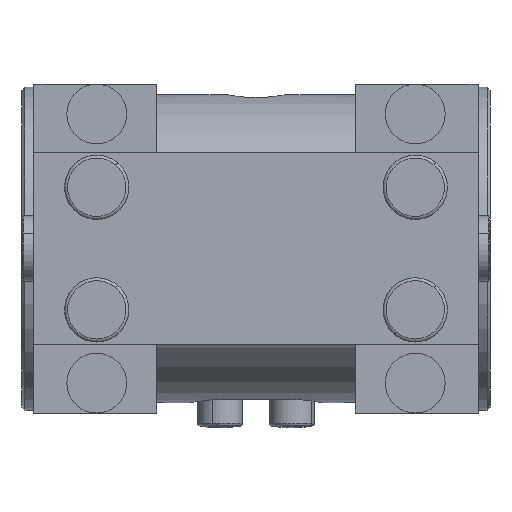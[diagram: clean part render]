
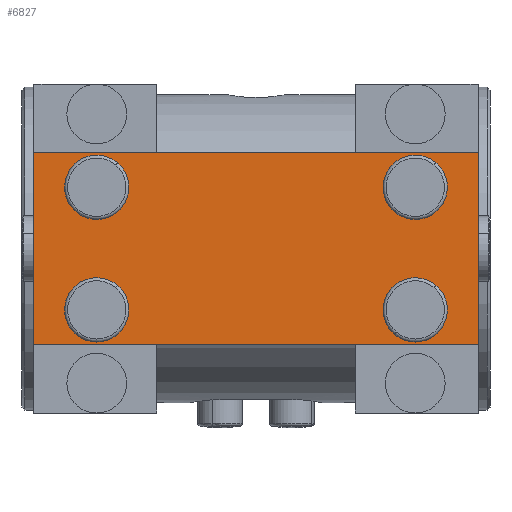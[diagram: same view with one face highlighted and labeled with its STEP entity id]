
A CAD part, front view. The second image highlights one B-rep face of the part: STEP entity #6827.
In plain terms, the highlighted planar face has unit normal (0, -1, 0).
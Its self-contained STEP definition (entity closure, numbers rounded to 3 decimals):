
#2 = CARTESIAN_POINT ( 'NONE',  ( -53.25, -83., -20.5 ) ) ;
#100 = AXIS2_PLACEMENT_3D ( 'NONE', #27055, #5444, #2681 ) ;
#154 = CARTESIAN_POINT ( 'NONE',  ( 62.75, -83., 20.5 ) ) ;
#250 = ORIENTED_EDGE ( 'NONE', *, *, #1325, .F. ) ;
#1188 = VERTEX_POINT ( 'NONE', #4944 ) ;
#1325 = EDGE_CURVE ( 'NONE', #23078, #11802, #1620, .T. ) ;
#1334 = EDGE_CURVE ( 'NONE', #11802, #23078, #27081, .T. ) ;
#1620 = CIRCLE ( 'NONE', #25254, 9.5 ) ;
#1837 = FACE_BOUND ( 'NONE', #23235, .T. ) ;
#1894 = EDGE_CURVE ( 'NONE', #18843, #26964, #19123, .T. ) ;
#1953 = ORIENTED_EDGE ( 'NONE', *, *, #1894, .F. ) ;
#2512 = DIRECTION ( 'NONE',  ( 0., -1., 0. ) ) ;
#2681 = DIRECTION ( 'NONE',  ( 1., 0., 0. ) ) ;
#2717 = LINE ( 'NONE', #17967, #23313 ) ;
#3358 = CARTESIAN_POINT ( 'NONE',  ( -53.25, -83., -20.5 ) ) ;
#3674 = CARTESIAN_POINT ( 'NONE',  ( 74.25, -83., 32. ) ) ;
#4393 = VECTOR ( 'NONE', #21211, 1000. ) ;
#4550 = DIRECTION ( 'NONE',  ( 1., 0., 0. ) ) ;
#4655 = CARTESIAN_POINT ( 'NONE',  ( -62.75, -83., 20.5 ) ) ;
#4944 = CARTESIAN_POINT ( 'NONE',  ( -74.25, -83., -32. ) ) ;
#5075 = DIRECTION ( 'NONE',  ( 0., -1., 0. ) ) ;
#5325 = DIRECTION ( 'NONE',  ( 1., 0., 0. ) ) ;
#5444 = DIRECTION ( 'NONE',  ( 0., -1., 0. ) ) ;
#5681 = ORIENTED_EDGE ( 'NONE', *, *, #13845, .F. ) ;
#5849 = CIRCLE ( 'NONE', #14166, 9.5 ) ;
#5914 = FACE_BOUND ( 'NONE', #28696, .T. ) ;
#6827 = ADVANCED_FACE ( 'NONE', ( #19395, #19105, #1837, #5914, #10689 ), #26221, .F. ) ;
#7141 = VERTEX_POINT ( 'NONE', #27644 ) ;
#7909 = AXIS2_PLACEMENT_3D ( 'NONE', #2, #28456, #8716 ) ;
#8283 = LINE ( 'NONE', #12374, #4393 ) ;
#8716 = DIRECTION ( 'NONE',  ( 1., 0., 0. ) ) ;
#8954 = EDGE_LOOP ( 'NONE', ( #5681, #15239 ) ) ;
#9354 = ORIENTED_EDGE ( 'NONE', *, *, #21103, .T. ) ;
#9389 = CARTESIAN_POINT ( 'NONE',  ( 74.25, -83., -32. ) ) ;
#9509 = VERTEX_POINT ( 'NONE', #10787 ) ;
#9668 = ORIENTED_EDGE ( 'NONE', *, *, #22228, .T. ) ;
#10050 = EDGE_CURVE ( 'NONE', #9509, #21300, #5849, .T. ) ;
#10237 = CIRCLE ( 'NONE', #7909, 9.5 ) ;
#10315 = VERTEX_POINT ( 'NONE', #3674 ) ;
#10689 = FACE_OUTER_BOUND ( 'NONE', #10991, .T. ) ;
#10787 = CARTESIAN_POINT ( 'NONE',  ( 62.75, -83., -20.5 ) ) ;
#10991 = EDGE_LOOP ( 'NONE', ( #9354, #28591, #9668, #18253 ) ) ;
#11418 = CARTESIAN_POINT ( 'NONE',  ( 74.25, -83., -32. ) ) ;
#11802 = VERTEX_POINT ( 'NONE', #154 ) ;
#11812 = CARTESIAN_POINT ( 'NONE',  ( 43.75, -83., 20.5 ) ) ;
#11964 = CARTESIAN_POINT ( 'NONE',  ( -43.75, -83., -20.5 ) ) ;
#12374 = CARTESIAN_POINT ( 'NONE',  ( -74.25, -83., -32. ) ) ;
#12645 = VERTEX_POINT ( 'NONE', #11964 ) ;
#12665 = ORIENTED_EDGE ( 'NONE', *, *, #20508, .F. ) ;
#12734 = DIRECTION ( 'NONE',  ( -1., 0., 0. ) ) ;
#13437 = CARTESIAN_POINT ( 'NONE',  ( -74.25, -83., 32. ) ) ;
#13601 = AXIS2_PLACEMENT_3D ( 'NONE', #20075, #2512, #4550 ) ;
#13845 = EDGE_CURVE ( 'NONE', #12645, #7141, #23256, .T. ) ;
#13871 = LINE ( 'NONE', #11418, #25277 ) ;
#13894 = AXIS2_PLACEMENT_3D ( 'NONE', #15996, #22378, #27302 ) ;
#14166 = AXIS2_PLACEMENT_3D ( 'NONE', #23317, #14614, #5325 ) ;
#14185 = CARTESIAN_POINT ( 'NONE',  ( -43.75, -83., 20.5 ) ) ;
#14614 = DIRECTION ( 'NONE',  ( 0., -1., 0. ) ) ;
#14801 = LINE ( 'NONE', #28005, #18346 ) ;
#14832 = CIRCLE ( 'NONE', #13894, 9.5 ) ;
#15239 = ORIENTED_EDGE ( 'NONE', *, *, #28273, .F. ) ;
#15996 = CARTESIAN_POINT ( 'NONE',  ( -53.25, -83., 20.5 ) ) ;
#16415 = VERTEX_POINT ( 'NONE', #9389 ) ;
#16727 = VERTEX_POINT ( 'NONE', #13437 ) ;
#16780 = CARTESIAN_POINT ( 'NONE',  ( 0., -83., 0. ) ) ;
#17463 = ORIENTED_EDGE ( 'NONE', *, *, #1334, .F. ) ;
#17967 = CARTESIAN_POINT ( 'NONE',  ( -74.25, -83., -32. ) ) ;
#18253 = ORIENTED_EDGE ( 'NONE', *, *, #19877, .T. ) ;
#18277 = AXIS2_PLACEMENT_3D ( 'NONE', #27856, #5075, #22773 ) ;
#18346 = VECTOR ( 'NONE', #21476, 1000. ) ;
#18360 = DIRECTION ( 'NONE',  ( 0., 0., 1. ) ) ;
#18843 = VERTEX_POINT ( 'NONE', #14185 ) ;
#18966 = DIRECTION ( 'NONE',  ( 0., 1., 0. ) ) ;
#18980 = ORIENTED_EDGE ( 'NONE', *, *, #10050, .F. ) ;
#19001 = DIRECTION ( 'NONE',  ( 1., 0., 0. ) ) ;
#19105 = FACE_BOUND ( 'NONE', #20157, .T. ) ;
#19123 = CIRCLE ( 'NONE', #100, 9.5 ) ;
#19395 = FACE_BOUND ( 'NONE', #8954, .T. ) ;
#19877 = EDGE_CURVE ( 'NONE', #1188, #16415, #2717, .T. ) ;
#20021 = AXIS2_PLACEMENT_3D ( 'NONE', #3358, #27298, #25282 ) ;
#20075 = CARTESIAN_POINT ( 'NONE',  ( 53.25, -83., -20.5 ) ) ;
#20157 = EDGE_LOOP ( 'NONE', ( #17463, #250 ) ) ;
#20508 = EDGE_CURVE ( 'NONE', #21300, #9509, #22386, .T. ) ;
#20779 = CARTESIAN_POINT ( 'NONE',  ( 43.75, -83., -20.5 ) ) ;
#21103 = EDGE_CURVE ( 'NONE', #16415, #10315, #13871, .T. ) ;
#21211 = DIRECTION ( 'NONE',  ( 0., 0., -1. ) ) ;
#21300 = VERTEX_POINT ( 'NONE', #20779 ) ;
#21476 = DIRECTION ( 'NONE',  ( -1., 0., 0. ) ) ;
#22228 = EDGE_CURVE ( 'NONE', #16727, #1188, #8283, .T. ) ;
#22378 = DIRECTION ( 'NONE',  ( 0., -1., 0. ) ) ;
#22386 = CIRCLE ( 'NONE', #13601, 9.5 ) ;
#22773 = DIRECTION ( 'NONE',  ( 1., 0., 0. ) ) ;
#23078 = VERTEX_POINT ( 'NONE', #11812 ) ;
#23213 = DIRECTION ( 'NONE',  ( 0., -1., 0. ) ) ;
#23235 = EDGE_LOOP ( 'NONE', ( #18980, #12665 ) ) ;
#23256 = CIRCLE ( 'NONE', #20021, 9.5 ) ;
#23313 = VECTOR ( 'NONE', #24793, 1000. ) ;
#23317 = CARTESIAN_POINT ( 'NONE',  ( 53.25, -83., -20.5 ) ) ;
#23353 = EDGE_CURVE ( 'NONE', #10315, #16727, #14801, .T. ) ;
#24793 = DIRECTION ( 'NONE',  ( 1., 0., 0. ) ) ;
#24964 = CARTESIAN_POINT ( 'NONE',  ( 53.25, -83., 20.5 ) ) ;
#25254 = AXIS2_PLACEMENT_3D ( 'NONE', #24964, #23213, #19001 ) ;
#25277 = VECTOR ( 'NONE', #18360, 1000. ) ;
#25282 = DIRECTION ( 'NONE',  ( 1., 0., 0. ) ) ;
#26221 = PLANE ( 'NONE',  #27892 ) ;
#26964 = VERTEX_POINT ( 'NONE', #4655 ) ;
#27055 = CARTESIAN_POINT ( 'NONE',  ( -53.25, -83., 20.5 ) ) ;
#27081 = CIRCLE ( 'NONE', #18277, 9.5 ) ;
#27186 = ORIENTED_EDGE ( 'NONE', *, *, #28058, .F. ) ;
#27298 = DIRECTION ( 'NONE',  ( 0., -1., 0. ) ) ;
#27302 = DIRECTION ( 'NONE',  ( 1., 0., 0. ) ) ;
#27644 = CARTESIAN_POINT ( 'NONE',  ( -62.75, -83., -20.5 ) ) ;
#27856 = CARTESIAN_POINT ( 'NONE',  ( 53.25, -83., 20.5 ) ) ;
#27892 = AXIS2_PLACEMENT_3D ( 'NONE', #16780, #18966, #12734 ) ;
#28005 = CARTESIAN_POINT ( 'NONE',  ( -74.25, -83., 32. ) ) ;
#28058 = EDGE_CURVE ( 'NONE', #26964, #18843, #14832, .T. ) ;
#28273 = EDGE_CURVE ( 'NONE', #7141, #12645, #10237, .T. ) ;
#28456 = DIRECTION ( 'NONE',  ( 0., -1., 0. ) ) ;
#28591 = ORIENTED_EDGE ( 'NONE', *, *, #23353, .T. ) ;
#28696 = EDGE_LOOP ( 'NONE', ( #1953, #27186 ) ) ;
